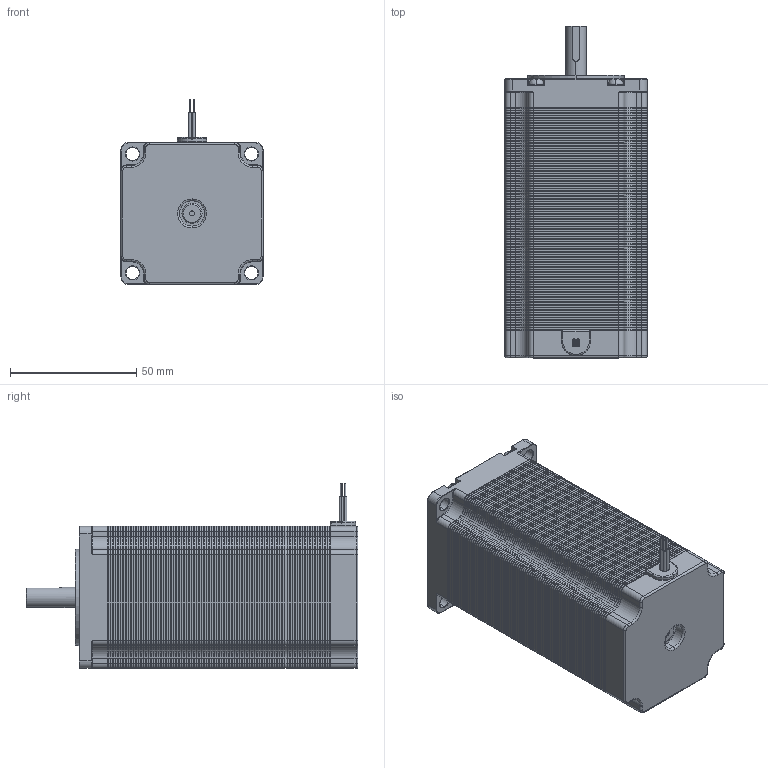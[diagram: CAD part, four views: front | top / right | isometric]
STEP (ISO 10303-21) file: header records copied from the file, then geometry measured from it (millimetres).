
FILE_DESCRIPTION (( 'STEP AP214' ), '1' );
FILE_NAME ('Nema 23 Stepper Motor length 112mm_8mm_key.STEP', '2020-11-11T15:30:51', ( 'Moofasta' ), ( '' ), 'SwSTEP 2.0', 'SolidWorks 2020', '' );
FILE_SCHEMA (( 'AUTOMOTIVE_DESIGN' ));
Length unit declared in the file: millimetre
Products named in the file (1): Nema 23 Stepper Motor length 112mm_8mm_key
Bounding box: 56.3 x 131.5 x 73.3 mm (x, y, z)
Volume: 318132.7 mm3; surface area: 536771 mm2
Topology: 104 solids, 104 shells, 6990 faces, 15885 edges, 9089 vertices
Faces by surface type: plane 3517, cone 2140, cylinder 1219, torus 94, sphere 12, bspline 8
Entity records: 264826 total; most frequent: DIRECTION 34478, CARTESIAN_POINT 32427, ORIENTED_EDGE 31730, EDGE_CURVE 15865, AXIS2_PLACEMENT_3D 11706, VECTOR 11066, LINE 11066, VERTEX_POINT 9089
